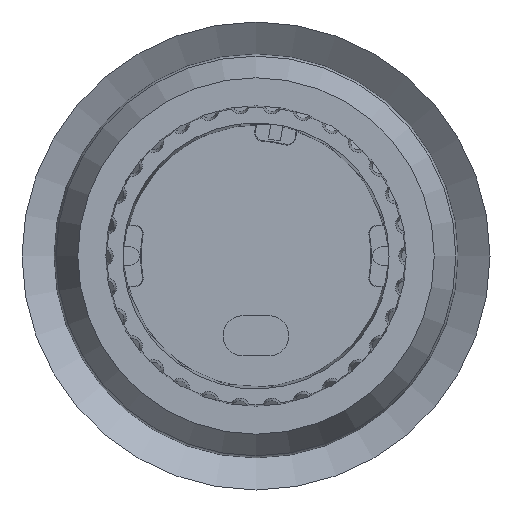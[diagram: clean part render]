
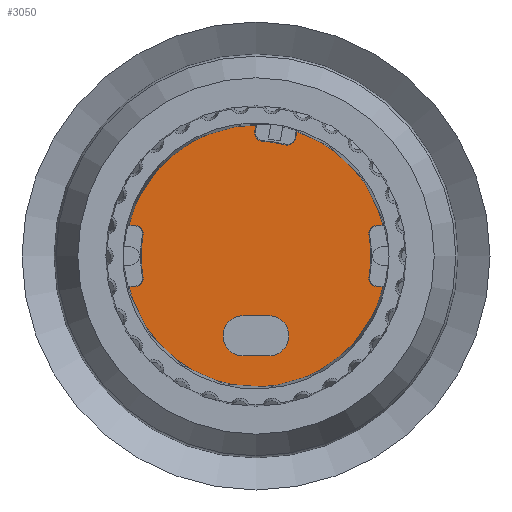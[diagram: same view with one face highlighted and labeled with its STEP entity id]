
A CAD part, front view. The second image highlights one B-rep face of the part: STEP entity #3050.
In plain terms, the highlighted planar face has unit normal (0, -1, 0).
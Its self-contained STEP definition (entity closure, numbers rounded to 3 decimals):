
#2013=PLANE('',#21082);
#3050=ADVANCED_FACE('',(#6058,#6059),#2013,.T.);
#3409=CIRCLE('',#21068,13.041);
#3410=CIRCLE('',#21069,0.861);
#3411=CIRCLE('',#21070,11.439);
#3412=CIRCLE('',#21071,0.861);
#3413=CIRCLE('',#21072,13.041);
#3414=CIRCLE('',#21073,0.861);
#3415=CIRCLE('',#21074,11.439);
#3416=CIRCLE('',#21075,0.861);
#3417=CIRCLE('',#21076,13.041);
#3418=CIRCLE('',#21077,0.861);
#3419=CIRCLE('',#21078,11.439);
#3420=CIRCLE('',#21079,0.861);
#3421=CIRCLE('',#21080,2.);
#3422=CIRCLE('',#21081,2.);
#4425=LINE('',#49862,#5808);
#4426=LINE('',#49867,#5809);
#4427=LINE('',#49875,#5810);
#4428=LINE('',#49879,#5811);
#4429=LINE('',#49887,#5812);
#4430=LINE('',#49891,#5813);
#4431=LINE('',#49898,#5814);
#4432=LINE('',#49903,#5815);
#5808=VECTOR('',#23842,1.);
#5809=VECTOR('',#23845,1.);
#5810=VECTOR('',#23852,1.);
#5811=VECTOR('',#23855,1.);
#5812=VECTOR('',#23862,1.);
#5813=VECTOR('',#23865,1.);
#5814=VECTOR('',#23872,1.);
#5815=VECTOR('',#23875,1.);
#6058=FACE_BOUND('',#7223,.T.);
#6059=FACE_BOUND('',#7224,.T.);
#7223=EDGE_LOOP('',(#12612,#12613,#12614,#12615,#12616,#12617,#12618,#12619,
#12620,#12621,#12622,#12623,#12624,#12625,#12626,#12627,#12628,#12629));
#7224=EDGE_LOOP('',(#12630,#12631,#12632,#12633));
#12612=ORIENTED_EDGE('',*,*,#17872,.F.);
#12613=ORIENTED_EDGE('',*,*,#17873,.T.);
#12614=ORIENTED_EDGE('',*,*,#17874,.T.);
#12615=ORIENTED_EDGE('',*,*,#17875,.T.);
#12616=ORIENTED_EDGE('',*,*,#17876,.T.);
#12617=ORIENTED_EDGE('',*,*,#17877,.T.);
#12618=ORIENTED_EDGE('',*,*,#17878,.F.);
#12619=ORIENTED_EDGE('',*,*,#17879,.T.);
#12620=ORIENTED_EDGE('',*,*,#17880,.T.);
#12621=ORIENTED_EDGE('',*,*,#17881,.T.);
#12622=ORIENTED_EDGE('',*,*,#17882,.T.);
#12623=ORIENTED_EDGE('',*,*,#17883,.T.);
#12624=ORIENTED_EDGE('',*,*,#17884,.F.);
#12625=ORIENTED_EDGE('',*,*,#17885,.T.);
#12626=ORIENTED_EDGE('',*,*,#17886,.T.);
#12627=ORIENTED_EDGE('',*,*,#17887,.T.);
#12628=ORIENTED_EDGE('',*,*,#17888,.T.);
#12629=ORIENTED_EDGE('',*,*,#17889,.T.);
#12630=ORIENTED_EDGE('',*,*,#17890,.T.);
#12631=ORIENTED_EDGE('',*,*,#17891,.T.);
#12632=ORIENTED_EDGE('',*,*,#17892,.T.);
#12633=ORIENTED_EDGE('',*,*,#17893,.T.);
#15027=VERTEX_POINT('',#49863);
#15028=VERTEX_POINT('',#49864);
#15029=VERTEX_POINT('',#49866);
#15030=VERTEX_POINT('',#49868);
#15031=VERTEX_POINT('',#49870);
#15032=VERTEX_POINT('',#49872);
#15033=VERTEX_POINT('',#49874);
#15034=VERTEX_POINT('',#49876);
#15035=VERTEX_POINT('',#49878);
#15036=VERTEX_POINT('',#49880);
#15037=VERTEX_POINT('',#49882);
#15038=VERTEX_POINT('',#49884);
#15039=VERTEX_POINT('',#49886);
#15040=VERTEX_POINT('',#49888);
#15041=VERTEX_POINT('',#49890);
#15042=VERTEX_POINT('',#49892);
#15043=VERTEX_POINT('',#49894);
#15044=VERTEX_POINT('',#49896);
#15045=VERTEX_POINT('',#49899);
#15046=VERTEX_POINT('',#49900);
#15047=VERTEX_POINT('',#49902);
#15048=VERTEX_POINT('',#49904);
#17872=EDGE_CURVE('',#15027,#15028,#4425,.T.);
#17873=EDGE_CURVE('',#15027,#15029,#3409,.T.);
#17874=EDGE_CURVE('',#15029,#15030,#4426,.T.);
#17875=EDGE_CURVE('',#15030,#15031,#3410,.T.);
#17876=EDGE_CURVE('',#15031,#15032,#3411,.T.);
#17877=EDGE_CURVE('',#15032,#15033,#3412,.T.);
#17878=EDGE_CURVE('',#15034,#15033,#4427,.T.);
#17879=EDGE_CURVE('',#15034,#15035,#3413,.T.);
#17880=EDGE_CURVE('',#15035,#15036,#4428,.T.);
#17881=EDGE_CURVE('',#15036,#15037,#3414,.T.);
#17882=EDGE_CURVE('',#15037,#15038,#3415,.T.);
#17883=EDGE_CURVE('',#15038,#15039,#3416,.T.);
#17884=EDGE_CURVE('',#15040,#15039,#4429,.T.);
#17885=EDGE_CURVE('',#15040,#15041,#3417,.T.);
#17886=EDGE_CURVE('',#15041,#15042,#4430,.T.);
#17887=EDGE_CURVE('',#15042,#15043,#3418,.T.);
#17888=EDGE_CURVE('',#15043,#15044,#3419,.T.);
#17889=EDGE_CURVE('',#15044,#15028,#3420,.T.);
#17890=EDGE_CURVE('',#15045,#15046,#4431,.T.);
#17891=EDGE_CURVE('',#15046,#15047,#3421,.T.);
#17892=EDGE_CURVE('',#15047,#15048,#4432,.T.);
#17893=EDGE_CURVE('',#15048,#15045,#3422,.T.);
#21068=AXIS2_PLACEMENT_3D('',#49865,#23843,#23844);
#21069=AXIS2_PLACEMENT_3D('',#49869,#23846,#23847);
#21070=AXIS2_PLACEMENT_3D('',#49871,#23848,#23849);
#21071=AXIS2_PLACEMENT_3D('',#49873,#23850,#23851);
#21072=AXIS2_PLACEMENT_3D('',#49877,#23853,#23854);
#21073=AXIS2_PLACEMENT_3D('',#49881,#23856,#23857);
#21074=AXIS2_PLACEMENT_3D('',#49883,#23858,#23859);
#21075=AXIS2_PLACEMENT_3D('',#49885,#23860,#23861);
#21076=AXIS2_PLACEMENT_3D('',#49889,#23863,#23864);
#21077=AXIS2_PLACEMENT_3D('',#49893,#23866,#23867);
#21078=AXIS2_PLACEMENT_3D('',#49895,#23868,#23869);
#21079=AXIS2_PLACEMENT_3D('',#49897,#23870,#23871);
#21080=AXIS2_PLACEMENT_3D('',#49901,#23873,#23874);
#21081=AXIS2_PLACEMENT_3D('',#49905,#23876,#23877);
#21082=AXIS2_PLACEMENT_3D('',#49906,#23878,#23879);
#23842=DIRECTION('',(-1.,0.,0.));
#23843=DIRECTION('',(0.,-1.,0.));
#23844=DIRECTION('',(0.972,0.,0.235));
#23845=DIRECTION('',(-0.156,0.,-0.988));
#23846=DIRECTION('',(0.,1.,0.));
#23847=DIRECTION('',(0.988,0.,-0.156));
#23848=DIRECTION('',(0.,-1.,0.));
#23849=DIRECTION('',(0.252,0.,0.968));
#23850=DIRECTION('',(0.,1.,0.));
#23851=DIRECTION('',(-0.059,0.,-0.998));
#23852=DIRECTION('',(-0.156,0.,-0.988));
#23853=DIRECTION('',(0.,-1.,0.));
#23854=DIRECTION('',(-0.311,0.,0.951));
#23855=DIRECTION('',(1.,0.,0.));
#23856=DIRECTION('',(0.,1.,0.));
#23857=DIRECTION('',(0.,0.,1.));
#23858=DIRECTION('',(0.,-1.,0.));
#23859=DIRECTION('',(-0.984,0.,0.179));
#23860=DIRECTION('',(0.,1.,0.));
#23861=DIRECTION('',(0.984,0.,0.179));
#23862=DIRECTION('',(1.,0.,0.));
#23863=DIRECTION('',(0.,-1.,0.));
#23864=DIRECTION('',(-0.972,0.,-0.235));
#23865=DIRECTION('',(-1.,0.,0.));
#23866=DIRECTION('',(0.,1.,0.));
#23867=DIRECTION('',(0.,0.,-1.));
#23868=DIRECTION('',(0.,-1.,0.));
#23869=DIRECTION('',(0.984,0.,-0.179));
#23870=DIRECTION('',(0.,1.,0.));
#23871=DIRECTION('',(-0.984,0.,-0.179));
#23872=DIRECTION('',(1.,0.,0.));
#23873=DIRECTION('',(0.,1.,0.));
#23874=DIRECTION('',(0.,0.,-1.));
#23875=DIRECTION('',(-1.,0.,0.));
#23876=DIRECTION('',(0.,1.,0.));
#23877=DIRECTION('',(0.,0.,-1.));
#23878=DIRECTION('',(0.,-1.,0.));
#23879=DIRECTION('',(-1.,0.,0.));
#49862=CARTESIAN_POINT('',(12.676,8.,3.061));
#49863=CARTESIAN_POINT('',(12.676,8.,3.061));
#49864=CARTESIAN_POINT('',(12.102,8.,3.061));
#49865=CARTESIAN_POINT('',(0.,8.,0.));
#49866=CARTESIAN_POINT('',(4.05,8.,12.396));
#49867=CARTESIAN_POINT('',(4.05,8.,12.396));
#49868=CARTESIAN_POINT('',(3.951,8.,11.768));
#49869=CARTESIAN_POINT('',(3.1,8.,11.903));
#49870=CARTESIAN_POINT('',(2.883,8.,11.07));
#49871=CARTESIAN_POINT('',(0.,8.,0.));
#49872=CARTESIAN_POINT('',(0.679,8.,11.419));
#49873=CARTESIAN_POINT('',(0.73,8.,12.278));
#49874=CARTESIAN_POINT('',(-0.121,8.,12.413));
#49875=CARTESIAN_POINT('',(-0.021,8.,13.04));
#49876=CARTESIAN_POINT('',(-0.021,8.,13.04));
#49877=CARTESIAN_POINT('',(0.,8.,0.));
#49878=CARTESIAN_POINT('',(-12.676,8.,3.061));
#49879=CARTESIAN_POINT('',(-12.676,8.,3.061));
#49880=CARTESIAN_POINT('',(-12.102,8.,3.061));
#49881=CARTESIAN_POINT('',(-12.102,8.,2.2));
#49882=CARTESIAN_POINT('',(-11.254,8.,2.046));
#49883=CARTESIAN_POINT('',(0.,8.,0.));
#49884=CARTESIAN_POINT('',(-11.254,8.,-2.046));
#49885=CARTESIAN_POINT('',(-12.102,8.,-2.2));
#49886=CARTESIAN_POINT('',(-12.102,8.,-3.061));
#49887=CARTESIAN_POINT('',(-12.676,8.,-3.061));
#49888=CARTESIAN_POINT('',(-12.676,8.,-3.061));
#49889=CARTESIAN_POINT('',(0.,8.,0.));
#49890=CARTESIAN_POINT('',(12.676,8.,-3.061));
#49891=CARTESIAN_POINT('',(12.676,8.,-3.061));
#49892=CARTESIAN_POINT('',(12.102,8.,-3.061));
#49893=CARTESIAN_POINT('',(12.102,8.,-2.2));
#49894=CARTESIAN_POINT('',(11.254,8.,-2.046));
#49895=CARTESIAN_POINT('',(0.,8.,0.));
#49896=CARTESIAN_POINT('',(11.254,8.,2.046));
#49897=CARTESIAN_POINT('',(12.102,8.,2.2));
#49898=CARTESIAN_POINT('',(0.,8.,-5.95));
#49899=CARTESIAN_POINT('',(-1.285,8.,-5.95));
#49900=CARTESIAN_POINT('',(1.275,8.,-5.95));
#49901=CARTESIAN_POINT('',(1.275,8.,-7.95));
#49902=CARTESIAN_POINT('',(1.275,8.,-9.95));
#49903=CARTESIAN_POINT('',(0.,8.,-9.95));
#49904=CARTESIAN_POINT('',(-1.285,8.,-9.95));
#49905=CARTESIAN_POINT('',(-1.285,8.,-7.95));
#49906=CARTESIAN_POINT('',(0.,8.,0.));
